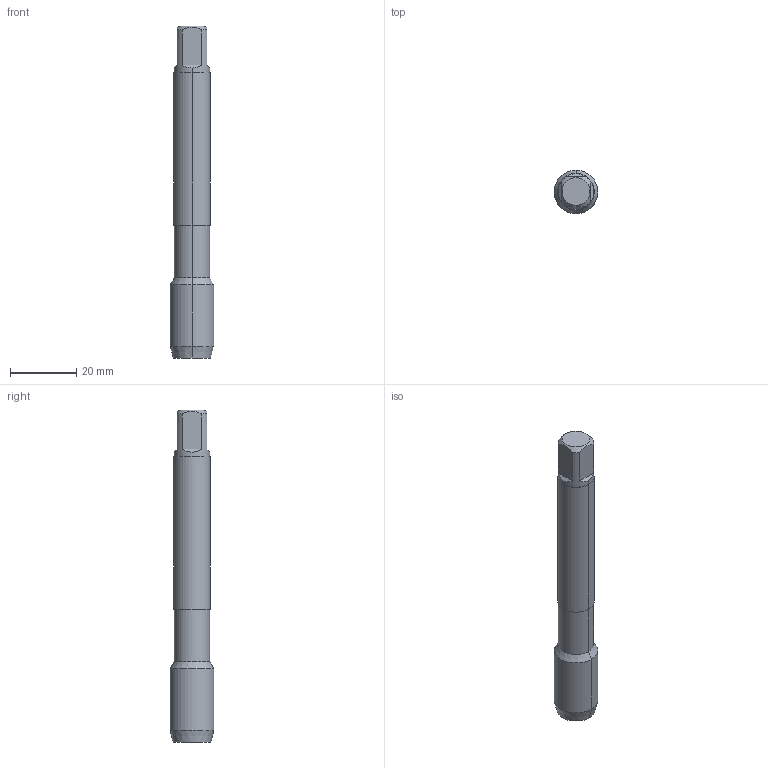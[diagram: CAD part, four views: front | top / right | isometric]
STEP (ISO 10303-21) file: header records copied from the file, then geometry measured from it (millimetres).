
FILE_DESCRIPTION (( 'STEP AP214' ), '1' );
FILE_NAME ('TC728400.STEP', '2020-03-10T05:13:18', ( 'USER' ), ( '' ), 'SwSTEP 2.0', 'SolidWorks 2018', '' );
FILE_SCHEMA (( 'AUTOMOTIVE_DESIGN' ));
Length unit declared in the file: millimetre
Products named in the file (1): TC728400
Bounding box: 13.16 x 13.16 x 100 mm (x, y, z)
Volume: 10031.4 mm3; surface area: 4022.6 mm2
Topology: 2 solids, 2 shells, 28 faces, 62 edges, 40 vertices
Faces by surface type: plane 14, cylinder 8, cone 6
Entity records: 1179 total; most frequent: CARTESIAN_POINT 211, DIRECTION 132, ORIENTED_EDGE 124, EDGE_CURVE 62, AXIS2_PLACEMENT_3D 53, VERTEX_POINT 40, UNCERTAINTY_MEASURE_WITH_UNIT 32, COLOUR_RGB 31
